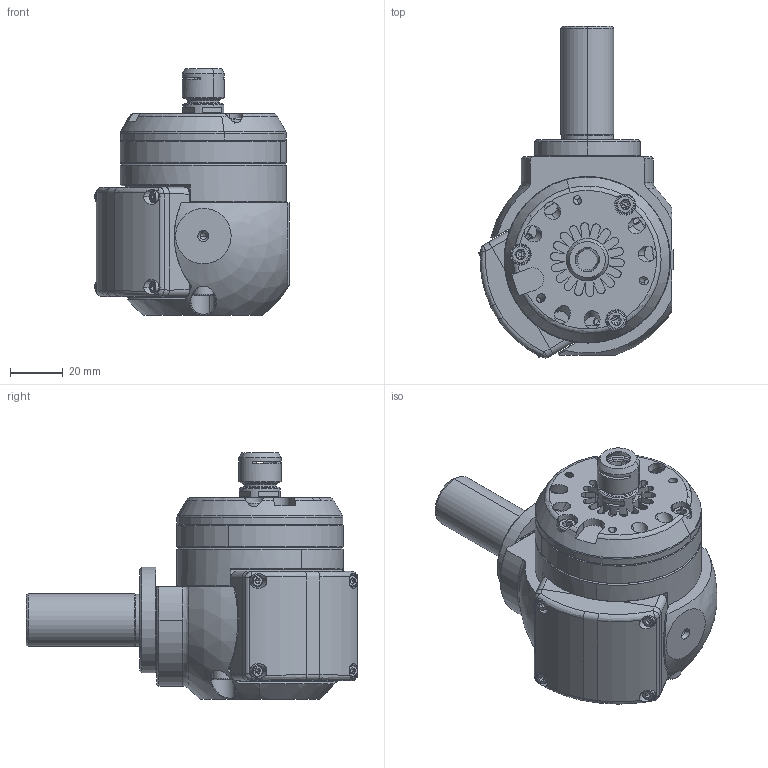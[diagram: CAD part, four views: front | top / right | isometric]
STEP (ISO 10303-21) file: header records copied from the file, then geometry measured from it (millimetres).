
FILE_DESCRIPTION (( 'STEP AP214' ), '1' );
FILE_NAME ('SPEED ST20 90D.STEP', '2025-12-09T12:53:11', ( 'pc' ), ( '' ), 'SwSTEP 2.0', 'SolidWorks 2024', '' );
FILE_SCHEMA (( 'AUTOMOTIVE_DESIGN' ));
Length unit declared in the file: millimetre
Products named in the file (1): SPEED ST20 90D
Bounding box: 73.59 x 125.58 x 93.4 mm (x, y, z)
Volume: 161806.1 mm3; surface area: 77126.8 mm2
Topology: 19 solids, 19 shells, 1383 faces, 3483 edges, 2138 vertices
Faces by surface type: plane 460, cylinder 446, cone 300, torus 134, bspline 41, sphere 2
Entity records: 44940 total; most frequent: CARTESIAN_POINT 11707, DIRECTION 7115, ORIENTED_EDGE 6890, EDGE_CURVE 3445, AXIS2_PLACEMENT_3D 2780, VERTEX_POINT 2137, LINE 1555, VECTOR 1555
